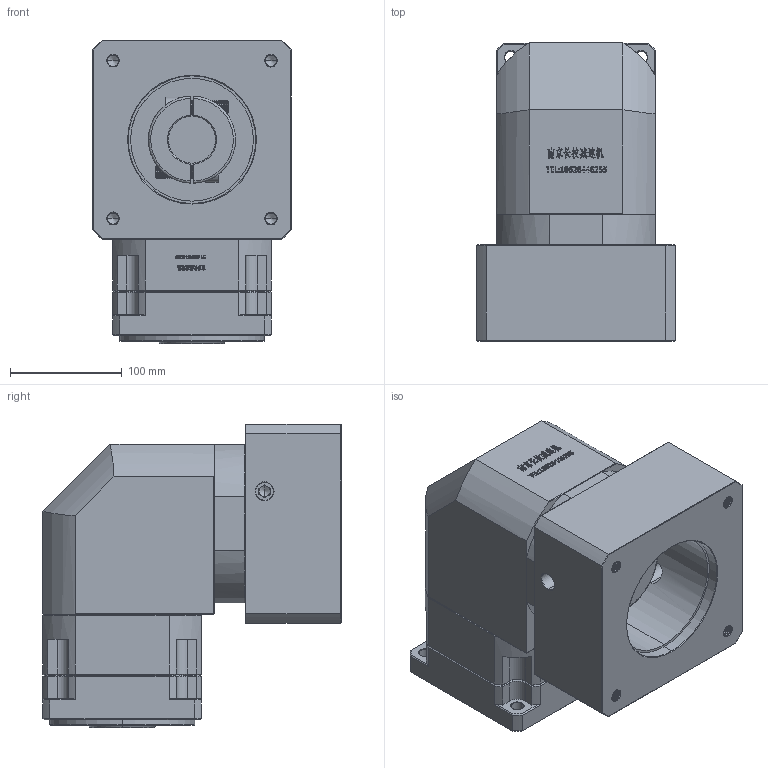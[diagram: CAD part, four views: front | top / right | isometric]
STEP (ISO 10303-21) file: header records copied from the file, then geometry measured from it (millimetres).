
FILE_DESCRIPTION (( 'STEP AP214' ), '1' );
FILE_NAME ('ZBR142A-K35-L1-42-114.3-200-M12.step', '2023-03-18T09:26:22', ( '' ), ( '' ), 'SwSTEP 2.0', 'SolidWorks 2016', '' );
FILE_SCHEMA (( 'AUTOMOTIVE_DESIGN' ));
Length unit declared in the file: millimetre
Products named in the file (1): ZBR142A-K35-L1-42-114.3-200-M12
Bounding box: 178 x 267 x 271.7 mm (x, y, z)
Volume: 6637689.3 mm3; surface area: 457002.5 mm2
Topology: 6 solids, 6 shells, 2841 faces, 7563 edges, 4870 vertices
Faces by surface type: plane 1533, bspline 585, cylinder 377, cone 326, torus 20
Entity records: 155624 total; most frequent: CARTESIAN_POINT 58089, ORIENTED_EDGE 15070, DIRECTION 11427, EDGE_CURVE 7535, LINE 5155, VECTOR 5155, VERTEX_POINT 4870, AXIS2_PLACEMENT_3D 3136
